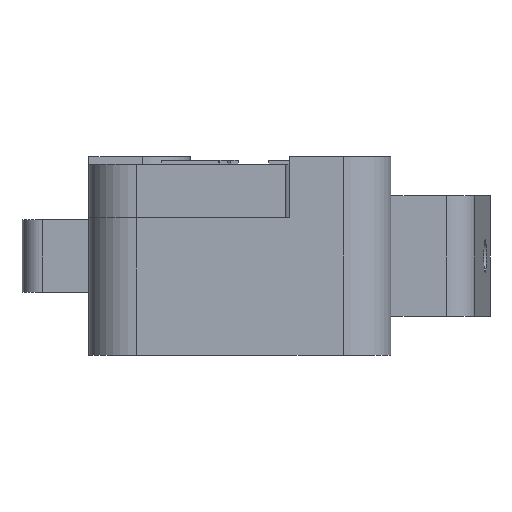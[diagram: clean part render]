
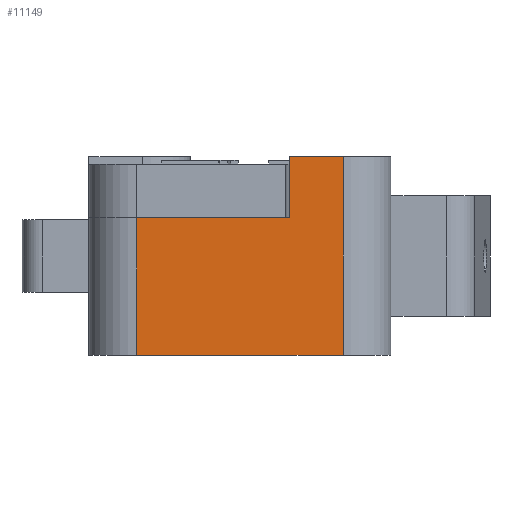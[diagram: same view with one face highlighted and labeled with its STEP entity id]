
A CAD part, left-side view. The second image highlights one B-rep face of the part: STEP entity #11149.
In plain terms, the highlighted planar face has unit normal (-1, 0, 0).
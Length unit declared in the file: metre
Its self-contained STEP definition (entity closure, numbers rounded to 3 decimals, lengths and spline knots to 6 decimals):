
#11065=CARTESIAN_POINT('',(-0.027238,-0.006323,0.022913));
#11066=VERTEX_POINT('',#11065);
#11069=CARTESIAN_POINT('',(-0.027238,-0.006323,0.030113));
#11070=DIRECTION('',(0.,0.,-1.));
#11071=VECTOR('',#11070,1.);
#11072=LINE('',#11069,#11071);
#11073=CARTESIAN_POINT('',(-0.027238,-0.006323,0.030113));
#11074=VERTEX_POINT('',#11073);
#11075=EDGE_CURVE('',#11074,#11066,#11072,.T.);
#11103=CARTESIAN_POINT('',(-0.027238,-0.014323,0.033313));
#11104=DIRECTION('',(1.,0.,0.));
#11105=DIRECTION('',(0.,1.,0.));
#11106=AXIS2_PLACEMENT_3D('',#11103,#11104,#11105);
#11107=PLANE('',#11106);
#11108=CARTESIAN_POINT('',(-0.027238,-0.014323,0.022913));
#11109=DIRECTION('',(0.,-1.,0.));
#11110=VECTOR('',#11109,1.);
#11111=LINE('',#11108,#11110);
#11112=CARTESIAN_POINT('',(-0.027238,-0.017123,0.022913));
#11113=VERTEX_POINT('',#11112);
#11114=EDGE_CURVE('',#11066,#11113,#11111,.T.);
#11115=ORIENTED_EDGE('',*,*,#11114,.T.);
#11116=CARTESIAN_POINT('',(-0.027238,-0.017123,0.033313));
#11117=DIRECTION('',(0.,0.,-1.));
#11118=VECTOR('',#11117,1.);
#11119=LINE('',#11116,#11118);
#11120=CARTESIAN_POINT('',(-0.027238,-0.017123,0.033313));
#11121=VERTEX_POINT('',#11120);
#11122=EDGE_CURVE('',#11121,#11113,#11119,.T.);
#11123=ORIENTED_EDGE('',*,*,#11122,.F.);
#11124=CARTESIAN_POINT('',(-0.027238,-0.014323,0.033313));
#11125=DIRECTION('',(0.,-1.,0.));
#11126=VECTOR('',#11125,1.);
#11127=LINE('',#11124,#11126);
#11128=CARTESIAN_POINT('',(-0.027238,-0.014323,0.033313));
#11129=VERTEX_POINT('',#11128);
#11130=EDGE_CURVE('',#11129,#11121,#11127,.T.);
#11131=ORIENTED_EDGE('',*,*,#11130,.F.);
#11132=CARTESIAN_POINT('',(-0.027238,-0.014323,0.033313));
#11133=DIRECTION('',(0.,0.,-1.));
#11134=VECTOR('',#11133,1.);
#11135=LINE('',#11132,#11134);
#11136=CARTESIAN_POINT('',(-0.027238,-0.014323,0.030113));
#11137=VERTEX_POINT('',#11136);
#11138=EDGE_CURVE('',#11129,#11137,#11135,.T.);
#11139=ORIENTED_EDGE('',*,*,#11138,.T.);
#11140=CARTESIAN_POINT('',(-0.027238,-0.011723,0.030113));
#11141=DIRECTION('',(0.,-1.,0.));
#11142=VECTOR('',#11141,1.);
#11143=LINE('',#11140,#11142);
#11144=EDGE_CURVE('',#11074,#11137,#11143,.T.);
#11145=ORIENTED_EDGE('',*,*,#11144,.F.);
#11146=ORIENTED_EDGE('',*,*,#11075,.T.);
#11147=EDGE_LOOP('',(#11115,#11123,#11131,#11139,#11145,#11146));
#11148=FACE_BOUND('',#11147,.T.);
#11149=ADVANCED_FACE('',(#11148),#11107,.F.);
